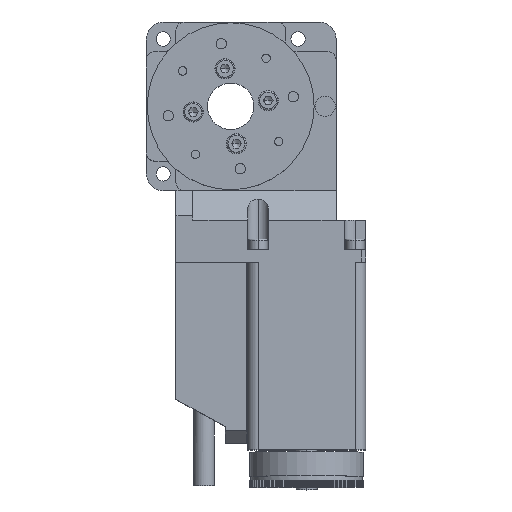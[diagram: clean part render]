
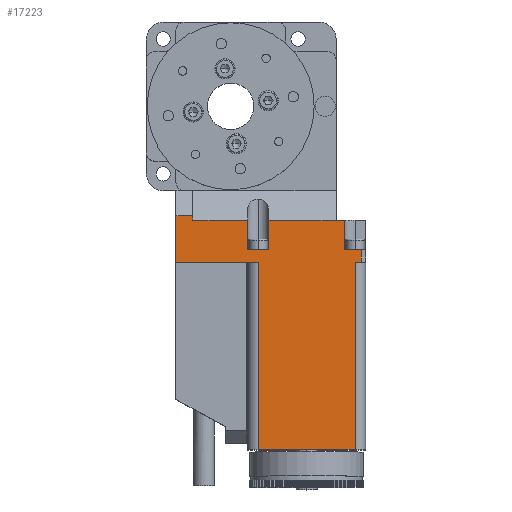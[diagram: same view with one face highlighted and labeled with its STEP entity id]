
A CAD part, top view. The second image highlights one B-rep face of the part: STEP entity #17223.
In plain terms, the highlighted planar face has unit normal (0, 0, 1).
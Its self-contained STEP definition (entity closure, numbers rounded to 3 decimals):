
#3201 = CARTESIAN_POINT ( 'NONE',  ( 49.5, -17., 27.5 ) ) ;
#3234 = DIRECTION ( 'NONE',  ( -1., 0., 0. ) ) ;
#3235 = VECTOR ( 'NONE', #3234, 1000. ) ;
#3236 = CARTESIAN_POINT ( 'NONE',  ( 52., -17., 27.5 ) ) ;
#3237 = LINE ( 'NONE', #3236, #3235 ) ;
#3239 = CARTESIAN_POINT ( 'NONE',  ( 51., -17., 27.5 ) ) ;
#3871 = CARTESIAN_POINT ( 'NONE',  ( 11., -7., 27.5 ) ) ;
#3872 = DIRECTION ( 'NONE',  ( 0., -1., 0. ) ) ;
#3873 = VECTOR ( 'NONE', #3872, 1000. ) ;
#3874 = CARTESIAN_POINT ( 'NONE',  ( 11., 0., 27.5 ) ) ;
#3875 = LINE ( 'NONE', #3874, #3873 ) ;
#3877 = CARTESIAN_POINT ( 'NONE',  ( 11., -6., 27.5 ) ) ;
#3896 = CARTESIAN_POINT ( 'NONE',  ( 47., -14., 27.5 ) ) ;
#3940 = DIRECTION ( 'NONE',  ( 0., 1., 0. ) ) ;
#3941 = VECTOR ( 'NONE', #3940, 1000. ) ;
#3942 = CARTESIAN_POINT ( 'NONE',  ( 51., -30.156, 27.5 ) ) ;
#3943 = LINE ( 'NONE', #3942, #3941 ) ;
#3944 = CARTESIAN_POINT ( 'NONE',  ( 51., -14., 27.5 ) ) ;
#3960 = CARTESIAN_POINT ( 'NONE',  ( 24., -14., 27.5 ) ) ;
#3997 = CARTESIAN_POINT ( 'NONE',  ( 29., -7., 27.5 ) ) ;
#3998 = DIRECTION ( 'NONE',  ( 0., -1., 0. ) ) ;
#3999 = VECTOR ( 'NONE', #3998, 1000. ) ;
#4000 = CARTESIAN_POINT ( 'NONE',  ( 29., -30.156, 27.5 ) ) ;
#4001 = LINE ( 'NONE', #4000, #3999 ) ;
#4002 = CARTESIAN_POINT ( 'NONE',  ( 29., -14., 27.5 ) ) ;
#4013 = DIRECTION ( 'NONE',  ( -1., 0., 0. ) ) ;
#4014 = VECTOR ( 'NONE', #4013, 1000. ) ;
#4015 = CARTESIAN_POINT ( 'NONE',  ( 14.59, -14., 27.5 ) ) ;
#4016 = LINE ( 'NONE', #4015, #4014 ) ;
#4023 = DIRECTION ( 'NONE',  ( -1., 0., 0. ) ) ;
#4024 = VECTOR ( 'NONE', #4023, 1000. ) ;
#4025 = CARTESIAN_POINT ( 'NONE',  ( 14.59, -14., 27.5 ) ) ;
#4026 = LINE ( 'NONE', #4025, #4024 ) ;
#4047 = CARTESIAN_POINT ( 'NONE',  ( 49.5, -61.5, 27.5 ) ) ;
#4059 = DIRECTION ( 'NONE',  ( 0., 1., 0. ) ) ;
#4060 = VECTOR ( 'NONE', #4059, 1000. ) ;
#4061 = CARTESIAN_POINT ( 'NONE',  ( 24., -30.156, 27.5 ) ) ;
#4062 = LINE ( 'NONE', #4061, #4060 ) ;
#4114 = DIRECTION ( 'NONE',  ( 0., 1., 0. ) ) ;
#4115 = VECTOR ( 'NONE', #4114, 1000. ) ;
#4116 = CARTESIAN_POINT ( 'NONE',  ( 47., -30.156, 27.5 ) ) ;
#4117 = LINE ( 'NONE', #4116, #4115 ) ;
#4118 = CARTESIAN_POINT ( 'NONE',  ( 47., -7., 27.5 ) ) ;
#4123 = CARTESIAN_POINT ( 'NONE',  ( 24., -7., 27.5 ) ) ;
#4151 = DIRECTION ( 'NONE',  ( 0., 1., 0. ) ) ;
#4152 = VECTOR ( 'NONE', #4151, 1000. ) ;
#4153 = CARTESIAN_POINT ( 'NONE',  ( 49.5, -30.156, 27.5 ) ) ;
#4154 = LINE ( 'NONE', #4153, #4152 ) ;
#4316 = CARTESIAN_POINT ( 'NONE',  ( 14.59, -7., 27.5 ) ) ;
#4317 = LINE ( 'NONE', #4316, #4379 ) ;
#4378 = DIRECTION ( 'NONE',  ( -1., 0., 0. ) ) ;
#4379 = VECTOR ( 'NONE', #4378, 1000. ) ;
#4445 = CARTESIAN_POINT ( 'NONE',  ( 45., -7., 27.5 ) ) ;
#4446 = DIRECTION ( 'NONE',  ( -1., 0., 0. ) ) ;
#4447 = VECTOR ( 'NONE', #4446, 1000. ) ;
#4448 = CARTESIAN_POINT ( 'NONE',  ( 14.59, -7., 27.5 ) ) ;
#4449 = LINE ( 'NONE', #4448, #4447 ) ;
#4474 = DIRECTION ( 'NONE',  ( -1., 0., 0. ) ) ;
#4475 = VECTOR ( 'NONE', #4474, 1000. ) ;
#4476 = CARTESIAN_POINT ( 'NONE',  ( 14.59, -6., 27.5 ) ) ;
#4477 = LINE ( 'NONE', #4476, #4475 ) ;
#4479 = CARTESIAN_POINT ( 'NONE',  ( 7., -6., 27.5 ) ) ;
#4553 = DIRECTION ( 'NONE',  ( -1., 0., 0. ) ) ;
#4554 = VECTOR ( 'NONE', #4553, 1000. ) ;
#4555 = CARTESIAN_POINT ( 'NONE',  ( 48.5, -7., 27.5 ) ) ;
#4556 = LINE ( 'NONE', #4555, #4554 ) ;
#4557 = DIRECTION ( 'NONE',  ( 1., 0., 0. ) ) ;
#4558 = VECTOR ( 'NONE', #4557, 1000. ) ;
#4559 = CARTESIAN_POINT ( 'NONE',  ( 38., -61.5, 27.5 ) ) ;
#4560 = LINE ( 'NONE', #4559, #4558 ) ;
#4561 = DIRECTION ( 'NONE',  ( -1., 0., 0. ) ) ;
#4562 = VECTOR ( 'NONE', #4561, 1000. ) ;
#4563 = CARTESIAN_POINT ( 'NONE',  ( 7., -17., 27.5 ) ) ;
#4564 = LINE ( 'NONE', #4563, #4562 ) ;
#4584 = CARTESIAN_POINT ( 'NONE',  ( 26.5, -61.5, 27.5 ) ) ;
#4602 = CARTESIAN_POINT ( 'NONE',  ( 7., -17., 27.5 ) ) ;
#4603 = DIRECTION ( 'NONE',  ( 0., 1., 0. ) ) ;
#4604 = VECTOR ( 'NONE', #4603, 1000. ) ;
#4605 = CARTESIAN_POINT ( 'NONE',  ( 7., -49.5, 27.5 ) ) ;
#4606 = LINE ( 'NONE', #4605, #4604 ) ;
#4607 = DIRECTION ( 'NONE',  ( 0., -1., 0. ) ) ;
#4608 = DIRECTION ( 'NONE',  ( 0., 0., 1. ) ) ;
#4609 = CARTESIAN_POINT ( 'NONE',  ( 14.59, -30.156, 27.5 ) ) ;
#4610 = AXIS2_PLACEMENT_3D ( 'NONE', #4609, #4608, #4607 ) ;
#4611 = PLANE ( 'NONE',  #4610 ) ;
#4612 = FACE_OUTER_BOUND ( 'NONE', #17224, .T. ) ;
#4639 = CARTESIAN_POINT ( 'NONE',  ( 26.5, -17., 27.5 ) ) ;
#4640 = DIRECTION ( 'NONE',  ( 0., -1., 0. ) ) ;
#4641 = VECTOR ( 'NONE', #4640, 1000. ) ;
#4642 = CARTESIAN_POINT ( 'NONE',  ( 26.5, -30.156, 27.5 ) ) ;
#4643 = LINE ( 'NONE', #4642, #4641 ) ;
#16365 = VERTEX_POINT ( 'NONE', #3201 ) ;
#16388 = VERTEX_POINT ( 'NONE', #3239 ) ;
#16391 = EDGE_CURVE ( 'NONE', #16388, #16365, #3237, .T. ) ;
#16737 = VERTEX_POINT ( 'NONE', #3877 ) ;
#16740 = EDGE_CURVE ( 'NONE', #16737, #16741, #3875, .T. ) ;
#16741 = VERTEX_POINT ( 'NONE', #3871 ) ;
#16763 = VERTEX_POINT ( 'NONE', #3896 ) ;
#16773 = VERTEX_POINT ( 'NONE', #3944 ) ;
#16775 = EDGE_CURVE ( 'NONE', #16388, #16773, #3943, .T. ) ;
#16810 = VERTEX_POINT ( 'NONE', #3960 ) ;
#16812 = EDGE_CURVE ( 'NONE', #16825, #16810, #4026, .T. ) ;
#16818 = EDGE_CURVE ( 'NONE', #16773, #16763, #4016, .T. ) ;
#16825 = VERTEX_POINT ( 'NONE', #4002 ) ;
#16827 = EDGE_CURVE ( 'NONE', #16828, #16825, #4001, .T. ) ;
#16828 = VERTEX_POINT ( 'NONE', #3997 ) ;
#16836 = VERTEX_POINT ( 'NONE', #4047 ) ;
#16871 = EDGE_CURVE ( 'NONE', #16810, #16872, #4062, .T. ) ;
#16872 = VERTEX_POINT ( 'NONE', #4123 ) ;
#16877 = VERTEX_POINT ( 'NONE', #4118 ) ;
#16879 = EDGE_CURVE ( 'NONE', #16763, #16877, #4117, .T. ) ;
#16896 = EDGE_CURVE ( 'NONE', #16836, #16365, #4154, .T. ) ;
#17047 = EDGE_CURVE ( 'NONE', #16872, #16741, #4317, .T. ) ;
#17107 = EDGE_CURVE ( 'NONE', #17108, #16828, #4449, .T. ) ;
#17108 = VERTEX_POINT ( 'NONE', #4445 ) ;
#17131 = VERTEX_POINT ( 'NONE', #4479 ) ;
#17134 = EDGE_CURVE ( 'NONE', #16737, #17131, #4477, .T. ) ;
#17208 = EDGE_CURVE ( 'NONE', #17245, #17230, #4564, .T. ) ;
#17209 = ORIENTED_EDGE ( 'NONE', *, *, #17244, .T. ) ;
#17210 = ORIENTED_EDGE ( 'NONE', *, *, #17211, .T. ) ;
#17211 = EDGE_CURVE ( 'NONE', #17242, #16836, #4560, .T. ) ;
#17212 = ORIENTED_EDGE ( 'NONE', *, *, #16896, .T. ) ;
#17213 = ORIENTED_EDGE ( 'NONE', *, *, #16391, .F. ) ;
#17214 = ORIENTED_EDGE ( 'NONE', *, *, #16775, .T. ) ;
#17215 = ORIENTED_EDGE ( 'NONE', *, *, #16818, .T. ) ;
#17216 = ORIENTED_EDGE ( 'NONE', *, *, #16879, .T. ) ;
#17217 = ORIENTED_EDGE ( 'NONE', *, *, #17218, .T. ) ;
#17218 = EDGE_CURVE ( 'NONE', #16877, #17108, #4556, .T. ) ;
#17219 = ORIENTED_EDGE ( 'NONE', *, *, #17107, .T. ) ;
#17223 = ADVANCED_FACE ( 'NONE', ( #4612 ), #4611, .T. ) ;
#17224 = EDGE_LOOP ( 'NONE', ( #17225, #17226, #17227, #17228, #17231, #17209, #17210, #17212, #17213, #17214, #17215, #17216, #17217, #17219, #17281, #17282, #17283 ) ) ;
#17225 = ORIENTED_EDGE ( 'NONE', *, *, #17047, .T. ) ;
#17226 = ORIENTED_EDGE ( 'NONE', *, *, #16740, .F. ) ;
#17227 = ORIENTED_EDGE ( 'NONE', *, *, #17134, .T. ) ;
#17228 = ORIENTED_EDGE ( 'NONE', *, *, #17229, .F. ) ;
#17229 = EDGE_CURVE ( 'NONE', #17230, #17131, #4606, .T. ) ;
#17230 = VERTEX_POINT ( 'NONE', #4602 ) ;
#17231 = ORIENTED_EDGE ( 'NONE', *, *, #17208, .F. ) ;
#17242 = VERTEX_POINT ( 'NONE', #4584 ) ;
#17244 = EDGE_CURVE ( 'NONE', #17245, #17242, #4643, .T. ) ;
#17245 = VERTEX_POINT ( 'NONE', #4639 ) ;
#17281 = ORIENTED_EDGE ( 'NONE', *, *, #16827, .T. ) ;
#17282 = ORIENTED_EDGE ( 'NONE', *, *, #16812, .T. ) ;
#17283 = ORIENTED_EDGE ( 'NONE', *, *, #16871, .T. ) ;
